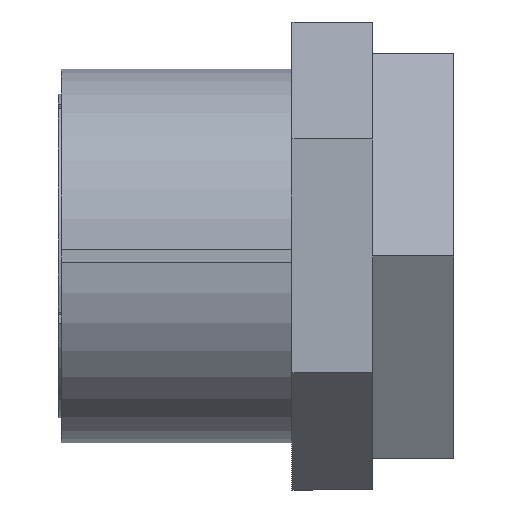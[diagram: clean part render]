
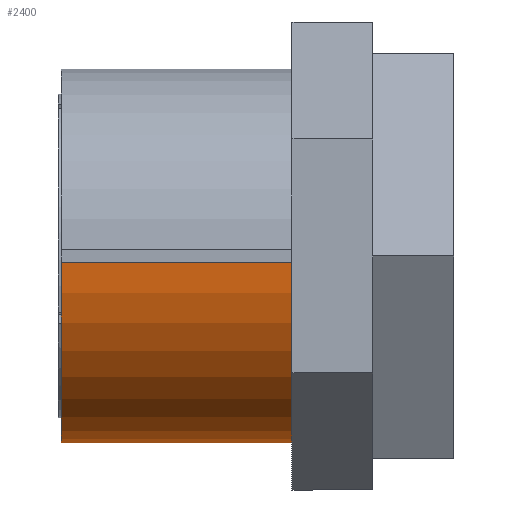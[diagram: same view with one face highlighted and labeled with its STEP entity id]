
A CAD part, front view. The second image highlights one B-rep face of the part: STEP entity #2400.
In plain terms, the highlighted cylindrical face has radius 30 mm (diameter 60 mm), a partial arc.
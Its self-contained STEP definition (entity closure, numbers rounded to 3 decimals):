
#82 = AXIS2_PLACEMENT_3D ( 'NONE', #2266, #2265, #2261 ) ;
#206 = CIRCLE ( 'NONE', #1272, 30. ) ;
#207 = LINE ( 'NONE', #1503, #216 ) ;
#210 = LINE ( 'NONE', #1500, #217 ) ;
#213 = CIRCLE ( 'NONE', #1266, 30. ) ;
#216 = VECTOR ( 'NONE', #1512, 1000. ) ;
#217 = VECTOR ( 'NONE', #1507, 1000. ) ;
#346 = ORIENTED_EDGE ( 'NONE', *, *, #1088, .T. ) ;
#347 = ORIENTED_EDGE ( 'NONE', *, *, #1083, .T. ) ;
#348 = ORIENTED_EDGE ( 'NONE', *, *, #1086, .T. ) ;
#349 = ORIENTED_EDGE ( 'NONE', *, *, #1087, .F. ) ;
#699 = EDGE_LOOP ( 'NONE', ( #349, #348, #347, #346 ) ) ;
#1028 = FACE_OUTER_BOUND ( 'NONE', #699, .T. ) ;
#1035 = CYLINDRICAL_SURFACE ( 'NONE', #82, 30. ) ;
#1083 = EDGE_CURVE ( 'NONE', #1382, #1309, #213, .T. ) ;
#1086 = EDGE_CURVE ( 'NONE', #1304, #1382, #210, .T. ) ;
#1087 = EDGE_CURVE ( 'NONE', #1304, #1342, #206, .T. ) ;
#1088 = EDGE_CURVE ( 'NONE', #1309, #1342, #207, .T. ) ;
#1266 = AXIS2_PLACEMENT_3D ( 'NONE', #1496, #1497, #1498 ) ;
#1272 = AXIS2_PLACEMENT_3D ( 'NONE', #1506, #1509, #1510 ) ;
#1304 = VERTEX_POINT ( 'NONE', #1942 ) ;
#1309 = VERTEX_POINT ( 'NONE', #1946 ) ;
#1342 = VERTEX_POINT ( 'NONE', #1979 ) ;
#1382 = VERTEX_POINT ( 'NONE', #2019 ) ;
#1496 = CARTESIAN_POINT ( 'NONE',  ( 37.5, 0., 0. ) ) ;
#1497 = DIRECTION ( 'NONE',  ( -1., 0., 0. ) ) ;
#1498 = DIRECTION ( 'NONE',  ( 0., 0., 1. ) ) ;
#1500 = CARTESIAN_POINT ( 'NONE',  ( 0., -1., -29.983 ) ) ;
#1503 = CARTESIAN_POINT ( 'NONE',  ( 0., -29.983, -1. ) ) ;
#1506 = CARTESIAN_POINT ( 'NONE',  ( 0.5, 0., 0. ) ) ;
#1507 = DIRECTION ( 'NONE',  ( 1., 0., 0. ) ) ;
#1509 = DIRECTION ( 'NONE',  ( -1., 0., 0. ) ) ;
#1510 = DIRECTION ( 'NONE',  ( 0., 0., 1. ) ) ;
#1512 = DIRECTION ( 'NONE',  ( -1., 0., 0. ) ) ;
#1942 = CARTESIAN_POINT ( 'NONE',  ( 0.5, -1., -29.983 ) ) ;
#1946 = CARTESIAN_POINT ( 'NONE',  ( 37.5, -29.983, -1. ) ) ;
#1979 = CARTESIAN_POINT ( 'NONE',  ( 0.5, -29.983, -1. ) ) ;
#2019 = CARTESIAN_POINT ( 'NONE',  ( 37.5, -1., -29.983 ) ) ;
#2261 = DIRECTION ( 'NONE',  ( 0., 0., 1. ) ) ;
#2265 = DIRECTION ( 'NONE',  ( -1., 0., 0. ) ) ;
#2266 = CARTESIAN_POINT ( 'NONE',  ( 0., 0., 0. ) ) ;
#2400 = ADVANCED_FACE ( 'NONE', ( #1028 ), #1035, .T. ) ;
